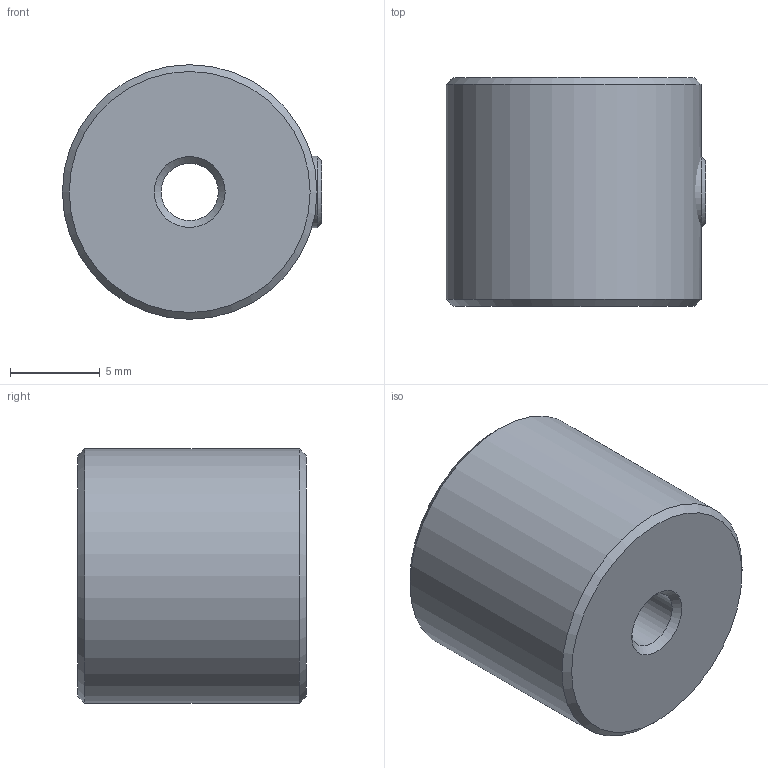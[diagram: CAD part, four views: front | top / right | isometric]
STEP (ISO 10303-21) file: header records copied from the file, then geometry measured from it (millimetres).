
FILE_DESCRIPTION(/* description */ (''),/* implementation_level */ '2;1');
FILE_NAME(/* name */ 'C:/Users/drich/Desktop/D-375 v2.step',/* time_stamp */ '2020-01-08T19:15:04-06:00',/* author */ (''),/* organization */ (''),/* preprocessor_version */ 'ST-DEVELOPER v18',/* originating_system */ 'Autodesk Translation Framework v8.12.0.6',/* authorisation */ '');
FILE_SCHEMA (('AUTOMOTIVE_DESIGN { 1 0 10303 214 3 1 1 }'));
Length unit declared in the file: inch
Products named in the file (1): D-375
Bounding box: 14.4 x 12.7 x 14.15 mm (x, y, z)
Volume: 1945.3 mm3; surface area: 1070.4 mm2
Topology: 2 solids, 2 shells, 26 faces, 59 edges, 39 vertices
Faces by surface type: plane 18, cone 5, cylinder 3
Full cylindrical faces by diameter (mm): 3.175 x1, 3.962 x1, 14.148 x1
Entity records: 779 total; most frequent: DIRECTION 132, CARTESIAN_POINT 125, ORIENTED_EDGE 118, EDGE_CURVE 59, AXIS2_PLACEMENT_3D 46, LINE 40, VECTOR 40, VERTEX_POINT 39
